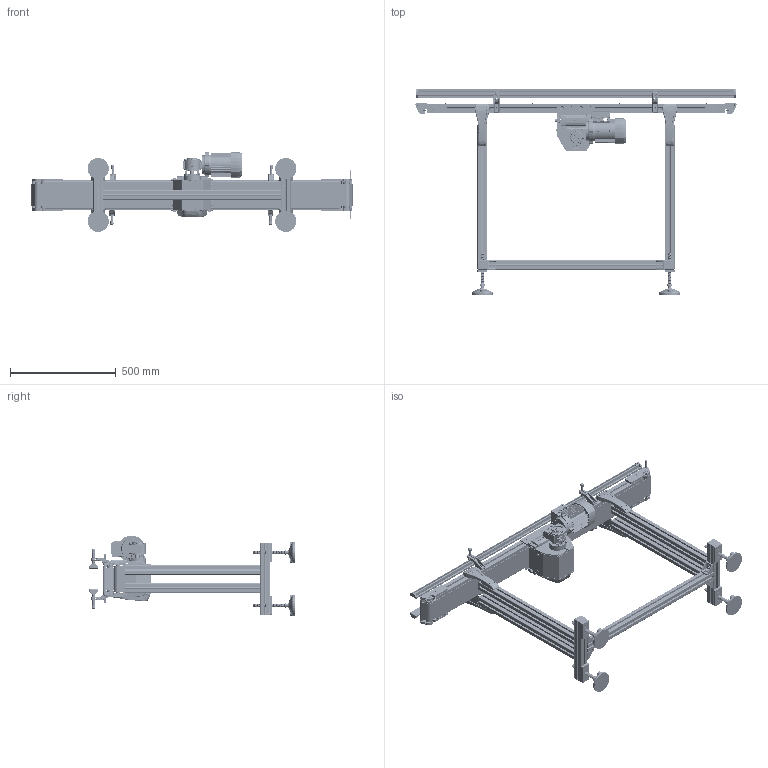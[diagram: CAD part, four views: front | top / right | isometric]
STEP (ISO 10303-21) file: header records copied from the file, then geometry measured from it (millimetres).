
FILE_DESCRIPTION (( 'STEP AP203' ), '1' );
FILE_NAME ('NASTRO_RETTILINEO_TAPPETO.step', '2026-05-29T08:24:32', ( 'Utente Windows' ), ( '' ), 'SwSTEP 2.0', 'SolidWorks 2024', '' );
FILE_SCHEMA (( 'CONFIG_CONTROL_DESIGN' ));
Length unit declared in the file: millimetre
Products named in the file (96): 084.809.007; VITI TCEI UNI 5931_M6x30 UNI 5931; 084.402.005; VITI TSEI UNI 5933_M8x16 UNI 5933; 084.802.070; 084.807.016_084.807.002; VITI TE UNI 5739_M6x16 UNI 5739; VITI TE UNI 5739_M8x12 UNI 5739; CHIAVETTE_A 8x7x20 UNI 6604-69; VITI TE UNI 5739_M6x50 UNI 5739; 084.807.015_084.807.002; RONDELLE UNI 6592_6.4x12.5 UNI 6592; 084.711.006_L2; 084.201.012-1; 084.301.000 VITI ALUSIC1_084.301.003; DADI ESAGONALI NORMALI UNI 5588_M6 UNI 5588; 30UNI7435; 084.302.000 DADI ALUSIC 13x13-1_084.302.007; VITI TE UNI 5739_M6x12 UNI 5739; 084.802.064; TRAVERSA_50-95_CENTRALE_Default<A macchina>; 2010.000.069; RONDELLE UNI 6592_5.3x10 UNI 6592; VITE_RONDELLA_M8X20; 084.711.006_PER CAVA 8 PERNO ALTO 1; 084.301.000 VITI ALUSIC_084.301.003; PERNO_SUP_95_PENNA; 084.812.003; 084.301.000 VITI ALUSIC_084.301.036; BLOCCO_TRAINO_50-95_CENTRALE; 2010.000.068; 084.711.006_L1; TELAIO_50_STANDARD_Default<A macchina>; PERNO_INF_50_PENNA; CH03F_DX; 084.827.040; 084.302.000 DADI ALUSIC 9x9_084.302.014; BLOCCO_RINVIO_50_PENNA_DX; FLANGIA_GAMBA_50; BLOCCO_PERNO_95_RINVIO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
Assembly tree (230 placements, depth 4):
  P210RLM-0816-77
  NASTRO_RETTILINEO_TAPPETO
    TAPPETO_CENTRALE_2PENNE
    TELAIO_50_STANDARD_Default<A macchina>
    LAMIERA_2_PENNE
    RULLO_SUP_50_PENNA  x2
    BLOCCO_RINVIO_50_PENNA_DX  x2
      084.802.036
      084.807.015_084.807.002
      VITI TCEI UNI 5931_M6x30 UNI 5931
      084.827.040
      VITI TCEI UNI 5931_M6x20 UNI 5931
      084.301.000 VITI ALUSIC_084.301.036
      084.302.016
      084.301.000 VITI ALUSIC_084.301.003
      08UNI7435
      12UNI7435
    PERNO_SUP_50_PENNA
    BLOCCO_RINVIO_50_PENNA_SX  x2
      084.807.016_084.807.002
      084.809.007
      084.802.036
      VITI TCEI UNI 5931_M6x30 UNI 5931
      RONDELLE UNI 6592_5.3x10 UNI 6592
      084.302.000 DADI ALUSIC 9x9_084.302.014
      VITI TCEI UNI 5931_M6x20 UNI 5931
      084.301.000 VITI ALUSIC_084.301.036
      084.302.016
      084.301.000 VITI ALUSIC_084.301.003
      VITI TE UNI 5739 INOX_M5x12 UNI 5739 INOX
      12UNI7435
      08UNI7435
    RULLO_INF_50_PENNA  x2
    PERNO_INF_50_PENNA  x2
    PERNO_SUP_95_PENNA
    RULLO_95_Default<A macchina>
    BLOCCO_TRAINO_50-95_CENTRALE_30
      084.802.009
      084.802.021
      084.802.004-1  x2
      084.802.003
      VITI TSEI UNI 5933_M8x20 UNI 5933  x4
      084.302.017
      VITI TE UNI 5739_M6x16 UNI 5739  x6
      RONDELLE UNI 6592_6.4x12.5 UNI 6592  x2
      DADI ESAGONALI NORMALI UNI 5588_M6 UNI 5588  x2
      VITI TE UNI 5739_M6x50 UNI 5739  x2
      VITI TSEI UNI 5933_M6x12 UNI 5933  x6
      VITI TSEI UNI 5933_M8x16 UNI 5933  x3
      084.802.070
    BLOCCO_TRAINO_50-95_CENTRALE
      084.802.004-1  x2
      084.802.020
      084.802.003
      VITI TSEI UNI 5933_M8x20 UNI 5933  x4
      VITI TSEI UNI 5933_M6x12 UNI 5933  x6
      RONDELLE UNI 6592_8.4x17 UNI 6592  x2
      VITI TE UNI 5739_M8x12 UNI 5739  x2
      VITI TE UNI 5739_M6x16 UNI 5739  x2
      084.302.017
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Bounding box: 1519.97 x 972.1 x 377.82 mm (x, y, z)
Volume: 11099012.7 mm3; surface area: 7677509.2 mm2
Topology: 373 solids, 377 shells, 17097 faces, 44102 edges, 27969 vertices
Faces by surface type: plane 6497, cylinder 6087, bspline 1775, cone 1533, torus 1022, sphere 183
Entity records: 306535 total; most frequent: CARTESIAN_POINT 117610, ORIENTED_EDGE 39106, DIRECTION 33717, EDGE_CURVE 19553, VERTEX_POINT 12533, AXIS2_PLACEMENT_3D 12246, LINE 9225, VECTOR 9225
